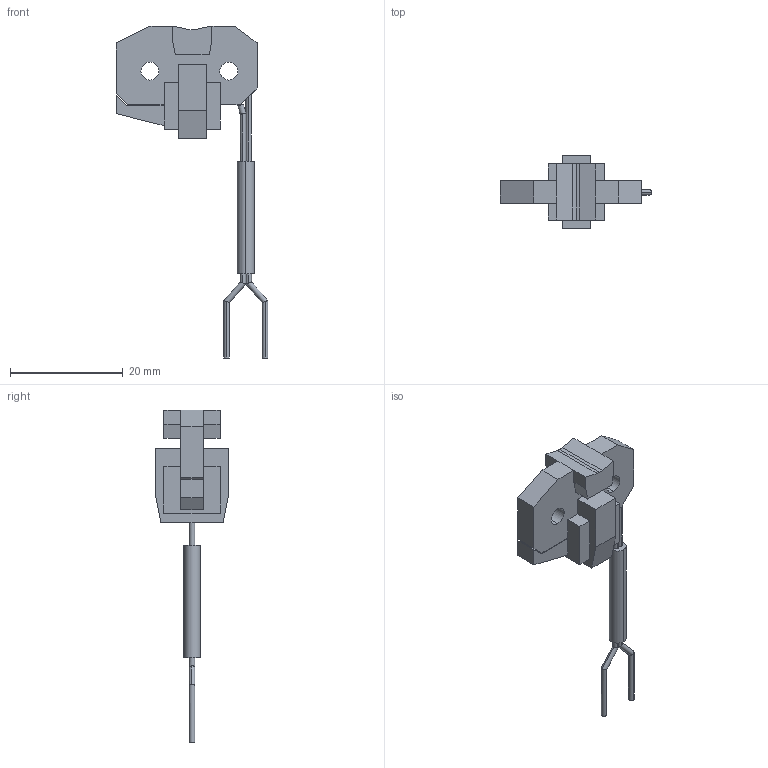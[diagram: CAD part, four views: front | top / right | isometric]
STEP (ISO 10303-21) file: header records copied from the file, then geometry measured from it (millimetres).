
FILE_DESCRIPTION (( 'STEP AP203' ), '1' );
FILE_NAME ('FD-F41.STEP', '2005-09-04T09:28:15', ( '川島良英' ), ( ' ' ), 'SwSTEP 2.0', 'SolidWorks 2004251', '' );
FILE_SCHEMA (( 'CONFIG_CONTROL_DESIGN' ));
Length unit declared in the file: millimetre
Products named in the file (1): FD-F41
Bounding box: 26.91 x 13 x 58.91 mm (x, y, z)
Volume: 2726 mm3; surface area: 2130.8 mm2
Topology: 2 solids, 2 shells, 85 faces, 224 edges, 148 vertices
Faces by surface type: plane 59, cylinder 26
Entity records: 2679 total; most frequent: CARTESIAN_POINT 524, ORIENTED_EDGE 448, DIRECTION 404, EDGE_CURVE 224, VECTOR 172, LINE 172, VERTEX_POINT 148, AXIS2_PLACEMENT_3D 116
